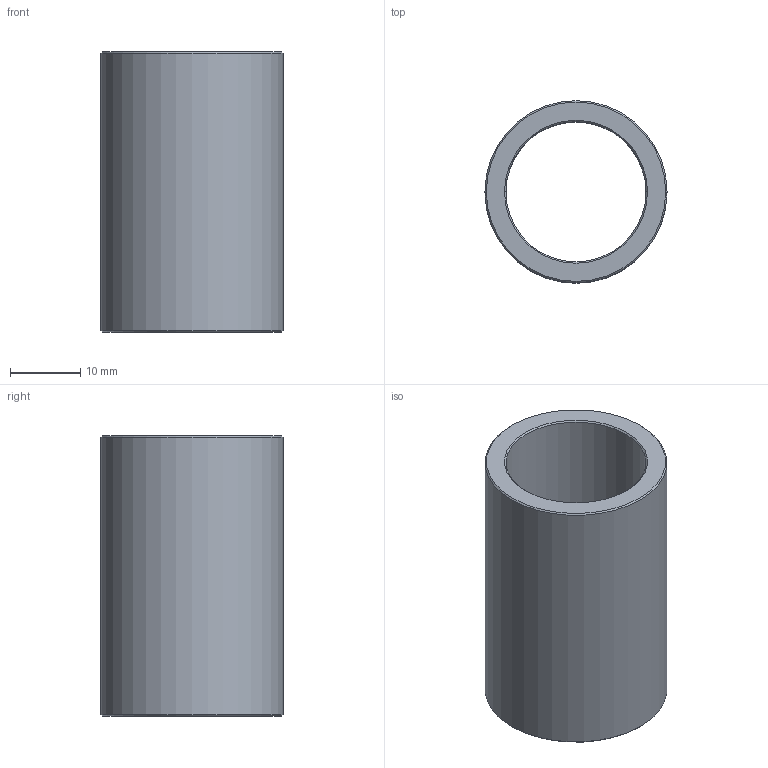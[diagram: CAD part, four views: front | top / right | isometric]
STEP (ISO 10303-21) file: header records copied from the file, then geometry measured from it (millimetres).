
FILE_DESCRIPTION(('STEP AP203'),'1');
FILE_NAME('C:/Users/Rodrigo/Desktop/GA3.020.040-1.step','2016-11-07T13:44:58',(' '),(' '),'Spatial InterOp 3D',' ',' ');
FILE_SCHEMA(('CONFIG_CONTROL_DESIGN'));
Length unit declared in the file: millimetre
Products named in the file (1): 1
Bounding box: 26 x 26 x 40 mm (x, y, z)
Volume: 8665 mm3; surface area: 6180.2 mm2
Topology: 1 solids, 1 shells, 8 faces, 14 edges, 8 vertices
Faces by surface type: cone 4, cylinder 2, plane 2
Full cylindrical faces by diameter (mm): 20 x1, 26 x1
Entity records: 212 total; most frequent: DIRECTION 34, CARTESIAN_POINT 25, AXIS2_PLACEMENT_3D 17, EDGE_LOOP 16, ORIENTED_EDGE 16, FACE_OUTER_BOUND 10, ADVANCED_FACE 8, EDGE_CURVE 8
